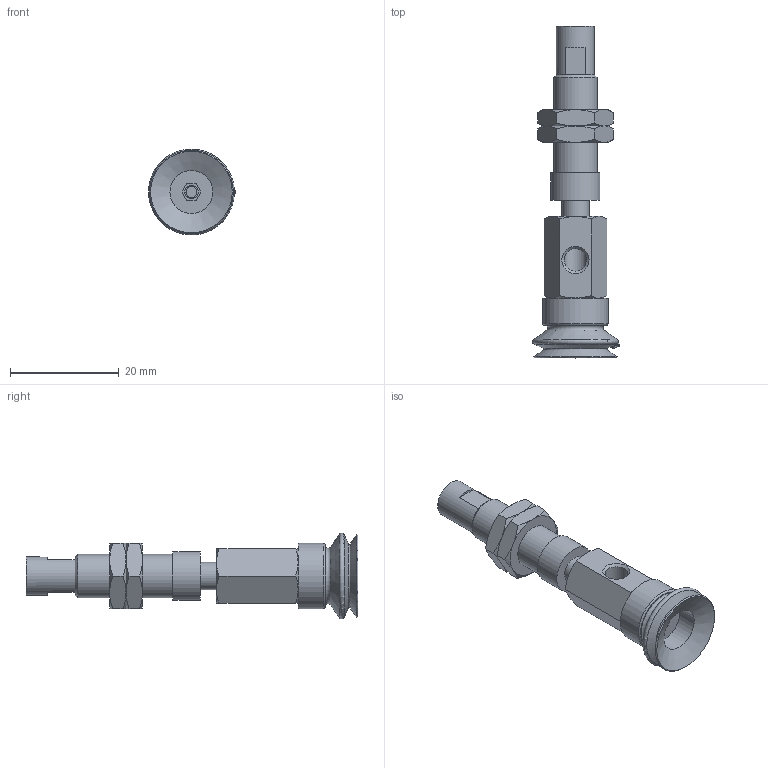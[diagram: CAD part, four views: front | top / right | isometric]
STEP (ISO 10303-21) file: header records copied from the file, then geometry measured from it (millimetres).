
FILE_DESCRIPTION(('STEP AP203'),'1');
FILE_NAME('.stp','2025-04-24T00:44:43',(' '),(' '),'Spatial InterOp 3D',' ',' ');
FILE_SCHEMA(('CONFIG_CONTROL_DESIGN'));
Length unit declared in the file: millimetre
Products named in the file (7): BNABPJYS-15-3-※; Adapter-15-NAPJ; CONNECTOR_S-15-3; NUT-NAPJ-15-3-s; NAPJTS-15-3-FBODY; NAPJTS-15-3-MBODY; BPJG-15-※
Assembly tree (7 placements, depth 2):
  BNABPJYS-15-3-※
    Adapter-15-NAPJ
    CONNECTOR_S-15-3
    NUT-NAPJ-15-3-s  x2
    NAPJTS-15-3-FBODY
    NAPJTS-15-3-MBODY
    BPJG-15-※
Bounding box: 15.99 x 61 x 15.78 mm (x, y, z)
Volume: 4174.2 mm3; surface area: 4957 mm2
Topology: 7 solids, 7 shells, 151 faces, 323 edges, 193 vertices
Faces by surface type: plane 59, cone 55, cylinder 18, torus 9, bspline 6, sphere 4
Full cylindrical faces by diameter (mm): 2 x1, 2.5 x1, 4.134 x3, 4.6 x1, 5 x4, 7 x1, 7.188 x2, 7.9 x1, 8 x2, 9 x1, 12 x1
Entity records: 3784 total; most frequent: CARTESIAN_POINT 919, DIRECTION 532, ORIENTED_EDGE 450, AXIS2_PLACEMENT_3D 233, EDGE_CURVE 225, EDGE_LOOP 187, VERTEX_POINT 156, FACE_OUTER_BOUND 152
